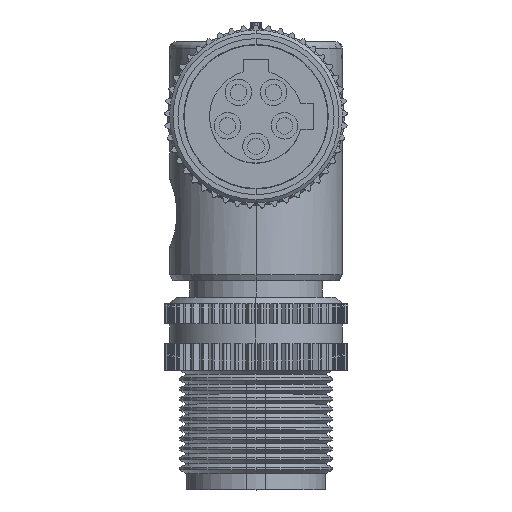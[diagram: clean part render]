
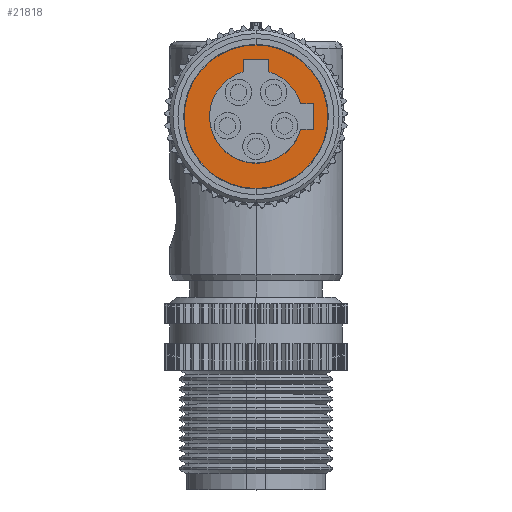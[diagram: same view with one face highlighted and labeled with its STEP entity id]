
A CAD part, top view. The second image highlights one B-rep face of the part: STEP entity #21818.
In plain terms, the highlighted planar face has unit normal (0, 0, 1).
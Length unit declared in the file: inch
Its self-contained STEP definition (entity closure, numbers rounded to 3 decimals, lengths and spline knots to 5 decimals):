
#74=CARTESIAN_POINT('',(0.,0.,-0.5));
#75=DIRECTION('',(0.,0.,-1.));
#76=DIRECTION('',(0.,-1.,0.));
#77=AXIS2_PLACEMENT_3D('',#74,#75,#76);
#79=CARTESIAN_POINT('',(0.,0.,-0.5));
#80=DIRECTION('',(0.,0.,-1.));
#81=DIRECTION('',(0.,1.,0.));
#82=AXIS2_PLACEMENT_3D('',#79,#80,#81);
#84=CARTESIAN_POINT('',(0.,0.,-0.5));
#85=DIRECTION('',(0.,0.,1.));
#86=DIRECTION('',(-0.279,0.96,0.));
#87=AXIS2_PLACEMENT_3D('',#84,#85,#86);
#89=CARTESIAN_POINT('',(0.,0.,-0.5));
#90=DIRECTION('',(0.,0.,1.));
#91=DIRECTION('',(0.,-1.,0.));
#92=AXIS2_PLACEMENT_3D('',#89,#90,#91);
#94=DIRECTION('',(-1.,0.,0.));
#95=VECTOR('',#94,0.03854);
#96=CARTESIAN_POINT('',(0.173,0.039,-0.5));
#97=LINE('',#96,#95);
#98=CARTESIAN_POINT('',(0.,0.,-0.5));
#99=DIRECTION('',(0.,0.,1.));
#100=DIRECTION('',(0.96,0.279,0.));
#101=AXIS2_PLACEMENT_3D('',#98,#99,#100);
#16992=DIRECTION('',(0.,1.,0.));
#16993=VECTOR('',#16992,0.03854);
#16994=CARTESIAN_POINT('',(-0.039,0.13446,-0.5));
#16995=LINE('',#16994,#16993);
#17004=DIRECTION('',(-1.,0.,0.));
#17005=VECTOR('',#17004,0.03854);
#17006=CARTESIAN_POINT('',(0.173,-0.039,-0.5));
#17007=LINE('',#17006,#17005);
#17012=DIRECTION('',(0.,-1.,0.));
#17013=VECTOR('',#17012,0.078);
#17014=CARTESIAN_POINT('',(0.173,0.039,-0.5));
#17015=LINE('',#17014,#17013);
#17028=DIRECTION('',(1.,0.,0.));
#17029=VECTOR('',#17028,0.078);
#17030=CARTESIAN_POINT('',(-0.039,0.173,-0.5));
#17031=LINE('',#17030,#17029);
#17048=DIRECTION('',(0.,-1.,0.));
#17049=VECTOR('',#17048,0.03854);
#17050=CARTESIAN_POINT('',(0.039,0.173,-0.5));
#17051=LINE('',#17050,#17049);
#17286=CARTESIAN_POINT('',(0.039,0.13446,-0.5));
#17288=VERTEX_POINT('',#17286);
#17291=CARTESIAN_POINT('',(0.13446,0.039,-0.5));
#17293=VERTEX_POINT('',#17291);
#17328=CARTESIAN_POINT('',(0.173,0.039,-0.5));
#17329=VERTEX_POINT('',#17328);
#17330=CARTESIAN_POINT('',(0.,-0.2165,-0.5));
#17331=CARTESIAN_POINT('',(0.,0.2165,-0.5));
#17332=VERTEX_POINT('',#17330);
#17333=VERTEX_POINT('',#17331);
#17334=CARTESIAN_POINT('',(-0.039,0.13446,-0.5));
#17335=CARTESIAN_POINT('',(0.,-0.14,-0.5));
#17336=VERTEX_POINT('',#17334);
#17337=VERTEX_POINT('',#17335);
#17338=CARTESIAN_POINT('',(0.13446,-0.039,-0.5));
#17339=VERTEX_POINT('',#17338);
#19366=CARTESIAN_POINT('',(-0.039,0.173,-0.5));
#19367=VERTEX_POINT('',#19366);
#19368=CARTESIAN_POINT('',(0.173,-0.039,-0.5));
#19369=VERTEX_POINT('',#19368);
#19370=CARTESIAN_POINT('',(0.039,0.173,-0.5));
#19371=VERTEX_POINT('',#19370);
#21789=CARTESIAN_POINT('',(0.,0.,-0.5));
#21790=DIRECTION('',(0.,0.,1.));
#21791=DIRECTION('',(0.,1.,0.));
#21792=AXIS2_PLACEMENT_3D('',#21789,#21790,#21791);
#21793=PLANE('',#21792);
#21795=ORIENTED_EDGE('',*,*,#21794,.T.);
#21797=ORIENTED_EDGE('',*,*,#21796,.T.);
#21798=EDGE_LOOP('',(#21795,#21797));
#21799=FACE_OUTER_BOUND('',#21798,.F.);
#21801=ORIENTED_EDGE('',*,*,#21800,.F.);
#21803=ORIENTED_EDGE('',*,*,#21802,.T.);
#21805=ORIENTED_EDGE('',*,*,#21804,.T.);
#21807=ORIENTED_EDGE('',*,*,#21806,.F.);
#21809=ORIENTED_EDGE('',*,*,#21808,.F.);
#21810=ORIENTED_EDGE('',*,*,#21782,.T.);
#21811=ORIENTED_EDGE('',*,*,#21713,.T.);
#21813=ORIENTED_EDGE('',*,*,#21812,.F.);
#21815=ORIENTED_EDGE('',*,*,#21814,.F.);
#21816=EDGE_LOOP('',(#21801,#21803,#21805,#21807,#21809,#21810,#21811,#21813,
#21815));
#21817=FACE_BOUND('',#21816,.F.);
#21818=ADVANCED_FACE('',(#21799,#21817),#21793,.T.);
#78=CIRCLE('',#77,0.2165);
#83=CIRCLE('',#82,0.2165);
#88=CIRCLE('',#87,0.14);
#93=CIRCLE('',#92,0.14);
#102=CIRCLE('',#101,0.14);
#21713=EDGE_CURVE('',#17293,#17288,#102,.T.);
#21782=EDGE_CURVE('',#17329,#17293,#97,.T.);
#21794=EDGE_CURVE('',#17332,#17333,#78,.T.);
#21796=EDGE_CURVE('',#17333,#17332,#83,.T.);
#21800=EDGE_CURVE('',#17336,#19367,#16995,.T.);
#21802=EDGE_CURVE('',#17336,#17337,#88,.T.);
#21804=EDGE_CURVE('',#17337,#17339,#93,.T.);
#21806=EDGE_CURVE('',#19369,#17339,#17007,.T.);
#21808=EDGE_CURVE('',#17329,#19369,#17015,.T.);
#21812=EDGE_CURVE('',#19371,#17288,#17051,.T.);
#21814=EDGE_CURVE('',#19367,#19371,#17031,.T.);
